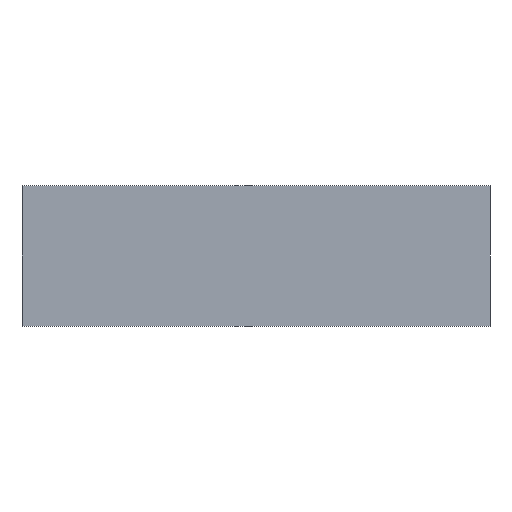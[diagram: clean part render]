
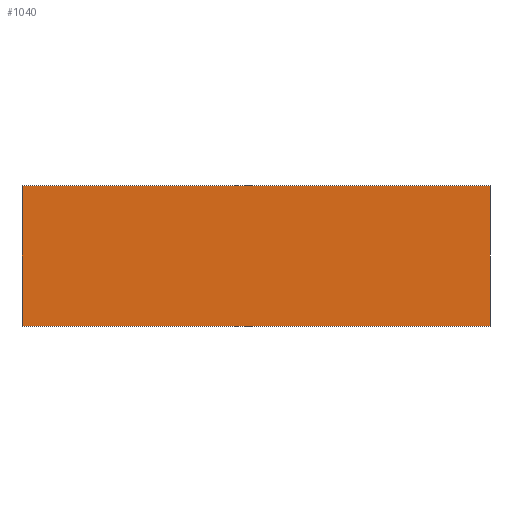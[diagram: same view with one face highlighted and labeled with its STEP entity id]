
A CAD part, front view. The second image highlights one B-rep face of the part: STEP entity #1040.
In plain terms, the highlighted planar face has unit normal (0, -1, 0).
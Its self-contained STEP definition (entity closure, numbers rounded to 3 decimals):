
#178=ORIENTED_EDGE('',*,*,#469,.T.);
#179=ORIENTED_EDGE('',*,*,#470,.T.);
#180=ORIENTED_EDGE('',*,*,#471,.F.);
#181=ORIENTED_EDGE('',*,*,#472,.F.);
#469=EDGE_CURVE('',#601,#605,#709,.T.);
#470=EDGE_CURVE('',#605,#606,#710,.T.);
#471=EDGE_CURVE('',#607,#606,#711,.T.);
#472=EDGE_CURVE('',#601,#607,#712,.T.);
#601=VERTEX_POINT('',#1628);
#605=VERTEX_POINT('',#1638);
#606=VERTEX_POINT('',#1642);
#607=VERTEX_POINT('',#1644);
#709=LINE('',#1639,#819);
#710=LINE('',#1641,#820);
#711=LINE('',#1643,#821);
#712=LINE('',#1645,#822);
#819=VECTOR('',#1319,1000.);
#820=VECTOR('',#1322,1000.);
#821=VECTOR('',#1323,1000.);
#822=VECTOR('',#1324,1000.);
#899=EDGE_LOOP('',(#178,#179,#180,#181));
#953=FACE_BOUND('',#899,.T.);
#998=PLANE('',#1126);
#1040=ADVANCED_FACE('',(#953),#998,.F.);
#1126=AXIS2_PLACEMENT_3D('',#1640,#1320,#1321);
#1319=DIRECTION('',(0.,0.,-1.));
#1320=DIRECTION('',(0.,1.,0.));
#1321=DIRECTION('',(0.,0.,1.));
#1322=DIRECTION('',(1.,0.,0.));
#1323=DIRECTION('',(0.,0.,-1.));
#1324=DIRECTION('',(1.,0.,0.));
#1628=CARTESIAN_POINT('',(-68.5,0.,20.5));
#1638=CARTESIAN_POINT('',(-68.5,0.,-20.5));
#1639=CARTESIAN_POINT('',(-68.5,0.,20.5));
#1640=CARTESIAN_POINT('',(-68.5,0.,20.5));
#1641=CARTESIAN_POINT('',(-68.5,0.,-20.5));
#1642=CARTESIAN_POINT('',(68.5,0.,-20.5));
#1643=CARTESIAN_POINT('',(68.5,0.,20.5));
#1644=CARTESIAN_POINT('',(68.5,0.,20.5));
#1645=CARTESIAN_POINT('',(-68.5,0.,20.5));
